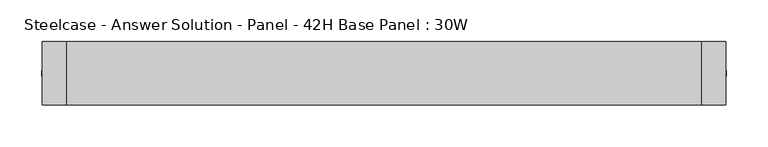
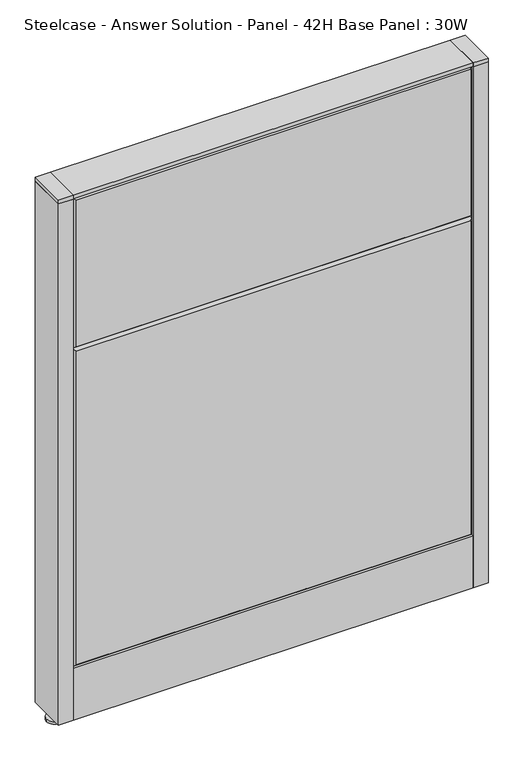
"""IFC4 building model written with IfcOpenShell, lengths in millimetres: furniture geometry, Steelcase - Answer Solution - Panel - 42H Base Panel : 30W."""

from ifc_helpers import new_model, si_unit, point, frame, frame_2d, origin, place, context, project, spatial, polyline, circle_curve, trimmed, segment, composite_curve, outline, extrude, faceted_brep, source, transform, mapped, element, save


def steelcase_answer_solution_panel_42h_base_panel_30w_f9c482f9(model_context):
    return source(origin(), model_context, "Body", "SolidModel", [
        extrude(outline(composite_curve([segment(trimmed(circle_curve(frame_2d((395.224, 0.0039657)), 5.08), [point((400.304, 0.0039657))], [point((390.144, 0.0039657))], False, "CARTESIAN"), True, "CONTINUOUS"), segment(trimmed(circle_curve(frame_2d((395.224, 0.0039657)), 5.08), [point((390.144, 0.0039657))], [point((400.304, 0.0039657))], False, "CARTESIAN"), True, "CONTINUOUS")], self_intersect=False)), frame((0.0, 0.0, 5.0799671), z_axis=(0.0, 0.0, 1.0), x_axis=(1.0, 0.0, 0.0)), (0.0, 0.0, 1.0), 10.414),
        extrude(outline(composite_curve([segment(trimmed(circle_curve(frame_2d((395.224, 0.0039657)), 15.24), [point((410.464, 0.0039657))], [point((379.984, 0.0039657))], False, "CARTESIAN"), True, "CONTINUOUS"), segment(trimmed(circle_curve(frame_2d((395.224, 0.0039657)), 15.24), [point((379.984, 0.0039657))], [point((410.464, 0.0039657))], False, "CARTESIAN"), True, "CONTINUOUS")], self_intersect=False)), frame((0.0, 0.0, -3.29e-05), z_axis=(0.0, 0.0, 1.0), x_axis=(1.0, 0.0, 0.0)), (0.0, 0.0, 1.0), 5.08),
        extrude(outline(polyline([(409.575, 38.1039851), (409.575, -38.0960149), (381.0, -38.0960149), (381.0, 38.1039851), (409.575, 38.1039851)])), frame((0.0, 0.0, 1065.8348), z_axis=(0.0, 0.0, 1.0), x_axis=(1.0, 0.0, 0.0)), (0.0, 0.0, 1.0), 7.3151671),
        extrude(outline(polyline([(409.575, 38.1039851), (409.575, -38.0960149), (381.0, -38.0960149), (381.0, 38.1039851), (409.575, 38.1039851)])), frame((0.0, 0.0, 15.4939671), z_axis=(0.0, 0.0, 1.0), x_axis=(1.0, 0.0, 0.0)), (0.0, 0.0, 1.0), 1050.3408329),
        extrude(outline(composite_curve([segment(trimmed(circle_curve(frame_2d((-395.224, 0.0039657)), 5.08), [point((-400.304, 0.0039657))], [point((-390.144, 0.0039657))], False, "CARTESIAN"), True, "CONTINUOUS"), segment(trimmed(circle_curve(frame_2d((-395.224, 0.0039657)), 5.08), [point((-390.144, 0.0039657))], [point((-400.304, 0.0039657))], False, "CARTESIAN"), True, "CONTINUOUS")], self_intersect=False)), frame((0.0, 0.0, 5.0799671), z_axis=(0.0, 0.0, 1.0), x_axis=(1.0, 0.0, 0.0)), (0.0, 0.0, 1.0), 10.414),
        extrude(outline(composite_curve([segment(trimmed(circle_curve(frame_2d((-395.224, 0.0039657)), 15.24), [point((-410.464, 0.0039657))], [point((-379.984, 0.0039657))], False, "CARTESIAN"), True, "CONTINUOUS"), segment(trimmed(circle_curve(frame_2d((-395.224, 0.0039657)), 15.24), [point((-379.984, 0.0039657))], [point((-410.464, 0.0039657))], False, "CARTESIAN"), True, "CONTINUOUS")], self_intersect=False)), frame((0.0, 0.0, -3.29e-05), z_axis=(0.0, 0.0, 1.0), x_axis=(1.0, 0.0, 0.0)), (0.0, 0.0, 1.0), 5.08),
        extrude(outline(polyline([(-409.575, 38.1039851), (-381.0, 38.1039851), (-381.0, -38.0960149), (-409.575, -38.0960149), (-409.575, 38.1039851)])), frame((0.0, 0.0, 1065.8348), z_axis=(0.0, 0.0, 1.0), x_axis=(1.0, 0.0, 0.0)), (0.0, 0.0, 1.0), 7.3151671),
        extrude(outline(polyline([(-409.575, 38.1039851), (-381.0, 38.1039851), (-381.0, -38.0960149), (-409.575, -38.0960149), (-409.575, 38.1039851)])), frame((0.0, 0.0, 15.4939671), z_axis=(0.0, 0.0, 1.0), x_axis=(1.0, 0.0, 0.0)), (0.0, 0.0, 1.0), 1050.3408329),
        faceted_brep([(-376.174, 38.1635011, 1061.974), (376.174, 38.1635011, 1061.974), (376.174, 38.1635011, 766.826), (-376.174, 38.1635011, 766.826), (-381.0, 33.3375011, 1066.8), (-381.0, 33.3375011, 762.0), (381.0, 33.3375011, 762.0), (381.0, 33.3375011, 1066.8)], [[[0, 1, 2, 3]], [[4, 5, 6, 7]], [[4, 7, 1, 0]], [[7, 6, 2, 1]], [[6, 5, 3, 2]], [[5, 4, 0, 3]]]),
        faceted_brep([(-376.174, 38.1635011, 757.174), (376.174, 38.1635011, 757.174), (376.174, 38.1635011, 125.476), (-376.174, 38.1635011, 125.476), (-381.0, 33.3375011, 762.0), (-381.0, 33.3375011, 120.65), (381.0, 33.3375011, 120.65), (381.0, 33.3375011, 762.0)], [[[0, 1, 2, 3]], [[4, 5, 6, 7]], [[4, 7, 1, 0]], [[7, 6, 2, 1]], [[6, 5, 3, 2]], [[5, 4, 0, 3]]]),
        faceted_brep([(376.174, -38.1635011, 1061.974), (-376.174, -38.1635011, 1061.974), (-376.174, -38.1635011, 766.826), (376.174, -38.1635011, 766.826), (381.0, -33.3375011, 1066.8), (381.0, -33.3375011, 762.0), (-381.0, -33.3375011, 762.0), (-381.0, -33.3375011, 1066.8)], [[[0, 1, 2, 3]], [[4, 5, 6, 7]], [[4, 7, 1, 0]], [[7, 6, 2, 1]], [[6, 5, 3, 2]], [[5, 4, 0, 3]]]),
        faceted_brep([(376.174, -38.1635011, 757.174), (-376.174, -38.1635011, 757.174), (-376.174, -38.1635011, 125.476), (376.174, -38.1635011, 125.476), (381.0, -33.3375011, 762.0), (381.0, -33.3375011, 120.65), (-381.0, -33.3375011, 120.65), (-381.0, -33.3375011, 762.0)], [[[0, 1, 2, 3]], [[4, 5, 6, 7]], [[4, 7, 1, 0]], [[7, 6, 2, 1]], [[6, 5, 3, 2]], [[5, 4, 0, 3]]]),
        extrude(outline(polyline([(381.0, 38.1000194), (381.0, -38.1000194), (-381.0, -38.1000194), (-381.0, 38.1000194), (381.0, 38.1000194)])), frame((0.0, 0.0, 1066.8), z_axis=(0.0, 0.0, 1.0), x_axis=(1.0, 0.0, 0.0)), (0.0, 0.0, 1.0), 6.35),
        extrude(outline(polyline([(25.4000011, 119.8575157), (25.4000011, 120.65), (38.1000194, 120.65), (38.1000194, 15.494), (37.3075215, 15.494), (37.3075215, 119.8575157), (25.4000011, 119.8575157)])), frame((-381.0, 0.0, 0.0), z_axis=(1.0, 0.0, 0.0), x_axis=(0.0, 1.0, 0.0)), (0.0, 0.0, 1.0), 762.0),
        extrude(outline(polyline([(-25.4000011, 119.8575157), (-37.3075215, 119.8575157), (-37.3075215, 15.494), (-38.1000194, 15.494), (-38.1000194, 120.65), (-25.4000011, 120.65), (-25.4000011, 119.8575157)])), frame((-381.0, 0.0, 0.0), z_axis=(1.0, 0.0, 0.0), x_axis=(0.0, 1.0, 0.0)), (0.0, 0.0, 1.0), 762.0),
    ])


if __name__ == "__main__":
    model = new_model("IFC4")
    model_context = context("Model", 3, world=origin())
    ifc_project = project(units=[si_unit("LENGTHUNIT", "METRE", prefix="MILLI")], contexts=[model_context])
    site = spatial("IfcSite", under=ifc_project)
    building = spatial("IfcBuilding", under=site)
    placement = place(None, origin())
    steelcase_answer_solution_panel_42h_base_panel_30w_shape = steelcase_answer_solution_panel_42h_base_panel_30w_f9c482f9(model_context)
    element("IfcFurniture", 1, ObjectType="Steelcase - Answer Solution - Panel - 42H Base Panel : 30W", at=placement, inside=building, context=model_context, shape_type="MappedRepresentation", body=[
        mapped(steelcase_answer_solution_panel_42h_base_panel_30w_shape, transform((0.0, 0.0, 0.0), x_axis=(1.0, 0.0, 0.0), y_axis=(0.0, 1.0, 0.0), z_axis=(0.0, 0.0, 1.0))),
    ])
    save(model, "model.ifc")
